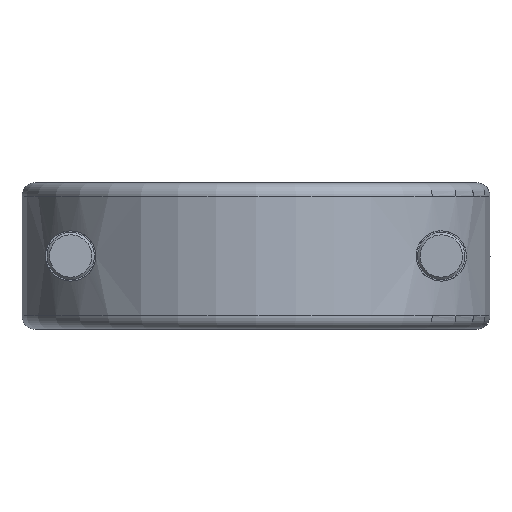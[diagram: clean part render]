
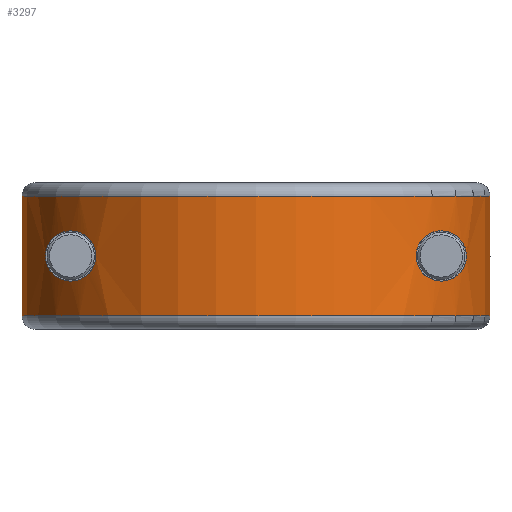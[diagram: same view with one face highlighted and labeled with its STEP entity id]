
A CAD part, front view. The second image highlights one B-rep face of the part: STEP entity #3297.
In plain terms, the highlighted cylindrical face has radius 24 mm (diameter 48 mm), a partial arc.
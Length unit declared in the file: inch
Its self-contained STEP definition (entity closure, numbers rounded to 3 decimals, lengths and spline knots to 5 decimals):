
#2648=CARTESIAN_POINT('',(0.94436,-0.0313,
0.05314));
#2802=CARTESIAN_POINT('',(0.,0.,0.5374));
#2803=DIRECTION('',(0.,0.,1.));
#2804=DIRECTION('',(-0.999,-0.033,0.));
#2805=AXIS2_PLACEMENT_3D('',#2802,#2803,#2804);
#2807=DIRECTION('',(0.,0.,-1.));
#2808=VECTOR('',#2807,0.48426);
#2809=CARTESIAN_POINT('',(0.94436,-0.0313,
0.53741));
#2810=LINE('',#2809,#2808);
#2811=CARTESIAN_POINT('',(0.,0.,0.05315));
#2812=DIRECTION('',(0.,0.,-1.));
#2813=DIRECTION('',(0.999,-0.033,0.));
#2814=AXIS2_PLACEMENT_3D('',#2811,#2812,#2813);
#2816=DIRECTION('',(0.,0.,1.));
#2817=VECTOR('',#2816,0.48426);
#2818=CARTESIAN_POINT('',(-0.94436,-0.0313,
0.05314));
#2819=LINE('',#2818,#2817);
#2820=CARTESIAN_POINT('',(-0.748,-0.57732,0.39684));
#2821=CARTESIAN_POINT('',(-0.73967,-0.58812,0.39684));
#2822=CARTESIAN_POINT('',(-0.72354,-0.60805,
0.39481));
#2823=CARTESIAN_POINT('',(-0.7012,-0.63359,
0.38645));
#2824=CARTESIAN_POINT('',(-0.68194,-0.65419,
0.37352));
#2825=CARTESIAN_POINT('',(-0.66658,-0.66977,
0.35728));
#2826=CARTESIAN_POINT('',(-0.65562,-0.68045,
0.3391));
#2827=CARTESIAN_POINT('',(-0.64889,-0.68685,
0.32012));
#2828=CARTESIAN_POINT('',(-0.64593,-0.68962,
0.30049));
#2829=CARTESIAN_POINT('',(-0.64686,-0.68875,
0.28085));
#2830=CARTESIAN_POINT('',(-0.65145,-0.68442,
0.26189));
#2831=CARTESIAN_POINT('',(-0.6596,-0.6766,
0.24395));
#2832=CARTESIAN_POINT('',(-0.6713,-0.66504,
0.2277));
#2833=CARTESIAN_POINT('',(-0.68627,-0.64963,
0.21374));
#2834=CARTESIAN_POINT('',(-0.70433,-0.63008,
0.20274));
#2835=CARTESIAN_POINT('',(-0.725,-0.60627,
0.19552));
#2836=CARTESIAN_POINT('',(-0.74015,-0.58749,
0.19371));
#2837=CARTESIAN_POINT('',(-0.748,-0.57732,0.19371));
#2839=CARTESIAN_POINT('',(0.748,-0.57732,0.19371));
#2840=CARTESIAN_POINT('',(0.73963,-0.58817,
0.19371));
#2841=CARTESIAN_POINT('',(0.72343,-0.60819,
0.19566));
#2842=CARTESIAN_POINT('',(0.70097,-0.63385,
0.20412));
#2843=CARTESIAN_POINT('',(0.68166,-0.65448,
0.21728));
#2844=CARTESIAN_POINT('',(0.66626,-0.67008,
0.23364));
#2845=CARTESIAN_POINT('',(0.65535,-0.68071,
0.25201));
#2846=CARTESIAN_POINT('',(0.64873,-0.687,
0.27117));
#2847=CARTESIAN_POINT('',(0.64588,-0.68967,
0.29095));
#2848=CARTESIAN_POINT('',(0.64701,-0.68861,0.31069));
#2849=CARTESIAN_POINT('',(0.65181,-0.68409,
0.32962));
#2850=CARTESIAN_POINT('',(0.66009,-0.67613,
0.34744));
#2851=CARTESIAN_POINT('',(0.67186,-0.66447,
0.36346));
#2852=CARTESIAN_POINT('',(0.68678,-0.6491,
0.37716));
#2853=CARTESIAN_POINT('',(0.70466,-0.6297,
0.3881));
#2854=CARTESIAN_POINT('',(0.72517,-0.60605,
0.39517));
#2855=CARTESIAN_POINT('',(0.74021,-0.58742,0.39684));
#2856=CARTESIAN_POINT('',(0.748,-0.57732,0.39684));
#2858=CARTESIAN_POINT('',(0.748,-0.57732,0.39684));
#2859=CARTESIAN_POINT('',(0.75516,-0.56804,0.39684));
#2860=CARTESIAN_POINT('',(0.76849,-0.55006,
0.39547));
#2861=CARTESIAN_POINT('',(0.78573,-0.52507,
0.39027));
#2862=CARTESIAN_POINT('',(0.80041,-0.50236,
0.38281));
#2863=CARTESIAN_POINT('',(0.81276,-0.48206,
0.37394));
#2864=CARTESIAN_POINT('',(0.82309,-0.46416,
0.36421));
#2865=CARTESIAN_POINT('',(0.83154,-0.4488,
0.35361));
#2866=CARTESIAN_POINT('',(0.83836,-0.4359,
0.34226));
#2867=CARTESIAN_POINT('',(0.84369,-0.42546,
0.33022));
#2868=CARTESIAN_POINT('',(0.84751,-0.41778,
0.31704));
#2869=CARTESIAN_POINT('',(0.84971,-0.41327,
0.30194));
#2870=CARTESIAN_POINT('',(0.84956,-0.41357,
0.28651));
#2871=CARTESIAN_POINT('',(0.84708,-0.41865,
0.27169));
#2872=CARTESIAN_POINT('',(0.84316,-0.42652,
0.25898));
#2873=CARTESIAN_POINT('',(0.83778,-0.43702,
0.24721));
#2874=CARTESIAN_POINT('',(0.83096,-0.44988,
0.23613));
#2875=CARTESIAN_POINT('',(0.82252,-0.46516,
0.22574));
#2876=CARTESIAN_POINT('',(0.81224,-0.48294,
0.21619));
#2877=CARTESIAN_POINT('',(0.79994,-0.5031,
0.20749));
#2878=CARTESIAN_POINT('',(0.78537,-0.52561,
0.2002));
#2879=CARTESIAN_POINT('',(0.76827,-0.55036,
0.19509));
#2880=CARTESIAN_POINT('',(0.75509,-0.56814,
0.19371));
#2881=CARTESIAN_POINT('',(0.748,-0.57732,0.19371));
#2917=CARTESIAN_POINT('',(-0.748,-0.57732,0.39684));
#2918=CARTESIAN_POINT('',(-0.75561,-0.56747,0.39684));
#2919=CARTESIAN_POINT('',(-0.76974,-0.54832,
0.39515));
#2920=CARTESIAN_POINT('',(-0.78771,-0.52201,
0.38933));
#2921=CARTESIAN_POINT('',(-0.80294,-0.49829,
0.38123));
#2922=CARTESIAN_POINT('',(-0.81557,-0.47732,
0.37161));
#2923=CARTESIAN_POINT('',(-0.82591,-0.45905,
0.36097));
#2924=CARTESIAN_POINT('',(-0.83433,-0.4436,
0.3494));
#2925=CARTESIAN_POINT('',(-0.84095,-0.43084,
0.33699));
#2926=CARTESIAN_POINT('',(-0.84587,-0.42114,
0.32373));
#2927=CARTESIAN_POINT('',(-0.84913,-0.41453,
0.30849));
#2928=CARTESIAN_POINT('',(-0.84995,-0.4128,
0.29215));
#2929=CARTESIAN_POINT('',(-0.84816,-0.41655,
0.27632));
#2930=CARTESIAN_POINT('',(-0.84443,-0.42397,
0.26243));
#2931=CARTESIAN_POINT('',(-0.83929,-0.43411,
0.25011));
#2932=CARTESIAN_POINT('',(-0.8326,-0.44679,
0.23854));
#2933=CARTESIAN_POINT('',(-0.82422,-0.46206,
0.22767));
#2934=CARTESIAN_POINT('',(-0.81397,-0.48004,
0.21758));
#2935=CARTESIAN_POINT('',(-0.80151,-0.50058,
0.20845));
#2936=CARTESIAN_POINT('',(-0.78659,-0.52372,
0.20079));
#2937=CARTESIAN_POINT('',(-0.76905,-0.54928,
0.19529));
#2938=CARTESIAN_POINT('',(-0.75535,-0.5678,
0.19371));
#2939=CARTESIAN_POINT('',(-0.748,-0.57732,0.19371));
#2980=CARTESIAN_POINT('',(-0.748,-0.57732,0.19371));
#2982=VERTEX_POINT('',#2980);
#2984=VERTEX_POINT('',#2917);
#2987=VERTEX_POINT('',#2839);
#2988=VERTEX_POINT('',#2856);
#2989=CARTESIAN_POINT('',(-0.94436,-0.0313,
0.5374));
#2990=CARTESIAN_POINT('',(0.94436,-0.0313,
0.5374));
#2991=VERTEX_POINT('',#2989);
#2992=VERTEX_POINT('',#2990);
#2997=CARTESIAN_POINT('',(-0.94436,-0.0313,
0.05314));
#2998=VERTEX_POINT('',#2997);
#3037=VERTEX_POINT('',#2648);
#3273=CARTESIAN_POINT('',(0.,0.,0.05315));
#3274=DIRECTION('',(0.,0.,-1.));
#3275=DIRECTION('',(-1.,0.,0.));
#3276=AXIS2_PLACEMENT_3D('',#3273,#3274,#3275);
#3277=CYLINDRICAL_SURFACE('',#3276,0.94488);
#3278=ORIENTED_EDGE('',*,*,#3258,.T.);
#3279=ORIENTED_EDGE('',*,*,#3117,.T.);
#3281=ORIENTED_EDGE('',*,*,#3280,.T.);
#3282=ORIENTED_EDGE('',*,*,#3214,.T.);
#3283=EDGE_LOOP('',(#3278,#3279,#3281,#3282));
#3284=FACE_OUTER_BOUND('',#3283,.F.);
#3286=ORIENTED_EDGE('',*,*,#3285,.T.);
#3288=ORIENTED_EDGE('',*,*,#3287,.F.);
#3289=EDGE_LOOP('',(#3286,#3288));
#3290=FACE_BOUND('',#3289,.F.);
#3292=ORIENTED_EDGE('',*,*,#3291,.F.);
#3294=ORIENTED_EDGE('',*,*,#3293,.F.);
#3295=EDGE_LOOP('',(#3292,#3294));
#3296=FACE_BOUND('',#3295,.F.);
#2806=CIRCLE('',#2805,0.94488);
#2815=CIRCLE('',#2814,0.94488);
#2838=B_SPLINE_CURVE_WITH_KNOTS('',3,(#2820,#2821,#2822,#2823,#2824,#2825,#2826,
#2827,#2828,#2829,#2830,#2831,#2832,#2833,#2834,#2835,#2836,#2837),
.UNSPECIFIED.,.F.,.F.,(4,1,1,1,1,1,1,1,1,1,1,1,1,1,1,4),(0.,0.06667,
0.13333,0.2,0.26667,0.33333,0.4,
0.46667,0.53333,0.6,0.66667,0.73333,
0.8,0.86667,0.93333,1.),.UNSPECIFIED.);
#2857=B_SPLINE_CURVE_WITH_KNOTS('',3,(#2839,#2840,#2841,#2842,#2843,#2844,#2845,
#2846,#2847,#2848,#2849,#2850,#2851,#2852,#2853,#2854,#2855,#2856),
.UNSPECIFIED.,.F.,.F.,(4,1,1,1,1,1,1,1,1,1,1,1,1,1,1,4),(0.,0.06667,
0.13333,0.2,0.26667,0.33333,0.4,
0.46667,0.53333,0.6,0.66667,0.73333,
0.8,0.86667,0.93333,1.),.UNSPECIFIED.);
#2882=B_SPLINE_CURVE_WITH_KNOTS('',3,(#2858,#2859,#2860,#2861,#2862,#2863,#2864,
#2865,#2866,#2867,#2868,#2869,#2870,#2871,#2872,#2873,#2874,#2875,#2876,#2877,
#2878,#2879,#2880,#2881),.UNSPECIFIED.,.F.,.F.,(4,1,1,1,1,1,1,1,1,1,1,1,1,1,1,1,
1,1,1,1,1,4),(0.,0.04762,0.09524,0.14286,
0.19048,0.2381,0.28571,0.33333,
0.38095,0.42857,0.47619,0.52381,
0.57143,0.61905,0.66667,0.71429,
0.7619,0.80952,0.85714,0.90476,
0.95238,1.),.UNSPECIFIED.);
#2940=B_SPLINE_CURVE_WITH_KNOTS('',3,(#2917,#2918,#2919,#2920,#2921,#2922,#2923,
#2924,#2925,#2926,#2927,#2928,#2929,#2930,#2931,#2932,#2933,#2934,#2935,#2936,
#2937,#2938,#2939),.UNSPECIFIED.,.F.,.F.,(4,1,1,1,1,1,1,1,1,1,1,1,1,1,1,1,1,1,1,
1,4),(0.,0.05,0.1,0.15,0.2,0.25,0.3,0.35,0.4,0.45,0.5,
0.55,0.6,0.65,0.7,0.75,0.8,0.85,0.9,0.95,1.),.UNSPECIFIED.);
#3117=EDGE_CURVE('',#2992,#3037,#2810,.T.);
#3214=EDGE_CURVE('',#2998,#2991,#2819,.T.);
#3258=EDGE_CURVE('',#2991,#2992,#2806,.T.);
#3280=EDGE_CURVE('',#3037,#2998,#2815,.T.);
#3285=EDGE_CURVE('',#2984,#2982,#2940,.T.);
#3287=EDGE_CURVE('',#2984,#2982,#2838,.T.);
#3291=EDGE_CURVE('',#2987,#2988,#2857,.T.);
#3293=EDGE_CURVE('',#2988,#2987,#2882,.T.);
#3297=ADVANCED_FACE('',(#3284,#3290,#3296),#3277,.T.);
